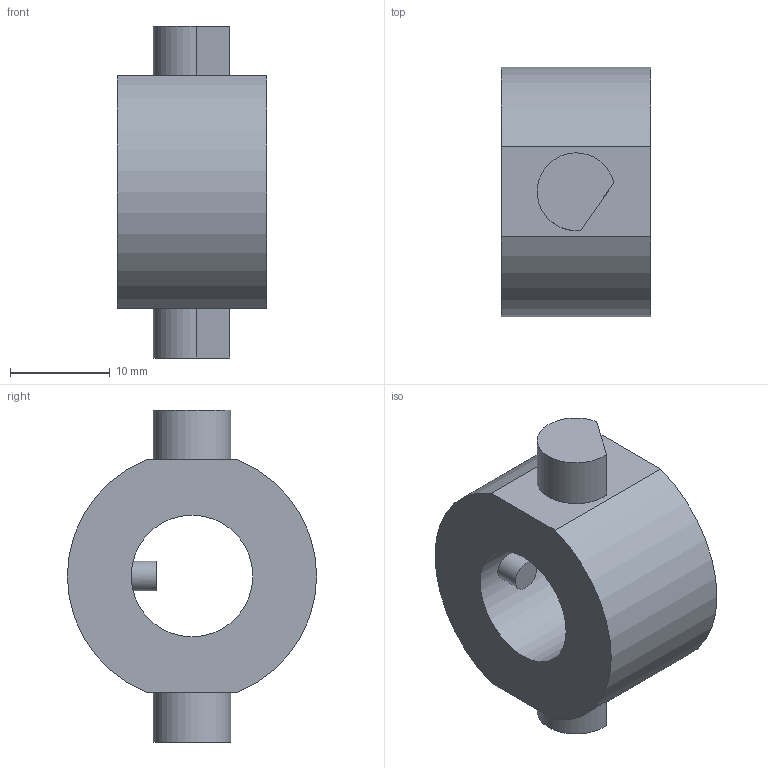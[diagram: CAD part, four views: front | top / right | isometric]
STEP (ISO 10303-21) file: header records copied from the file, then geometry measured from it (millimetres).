
FILE_DESCRIPTION(('STEP AP242'), '1');
FILE_NAME('26.06.2025.002 - Äåòàëü', '', ('UNSPECIFIED'), ('UNSPECIFIED'), 'C3D Converter', 'C3D Toolkit', '');
FILE_SCHEMA(('AP242_MANAGED_MODEL_BASED_3D_ENGINEERING_MIM_LF { 1 0 10303 442 1 1 4 }'));
Length unit declared in the file: millimetre
Products named in the file (1): СЦ.26.06.2025.002
Bounding box: 15 x 25 x 33.3 mm (x, y, z)
Volume: 5914.7 mm3; surface area: 2756.8 mm2
Topology: 1 solids, 1 shells, 17 faces, 33 edges, 22 vertices
Faces by surface type: plane 10, cylinder 7
Full cylindrical faces by diameter (mm): 3 x2, 12.2 x1
Entity records: 669 total; most frequent: CARTESIAN_POINT 204, DIRECTION 76, ORIENTED_EDGE 60, AXIS2_PLACEMENT_3D 30, EDGE_CURVE 30, EDGE_LOOP 26, VERTEX_POINT 22, FACE_BOUND 20
